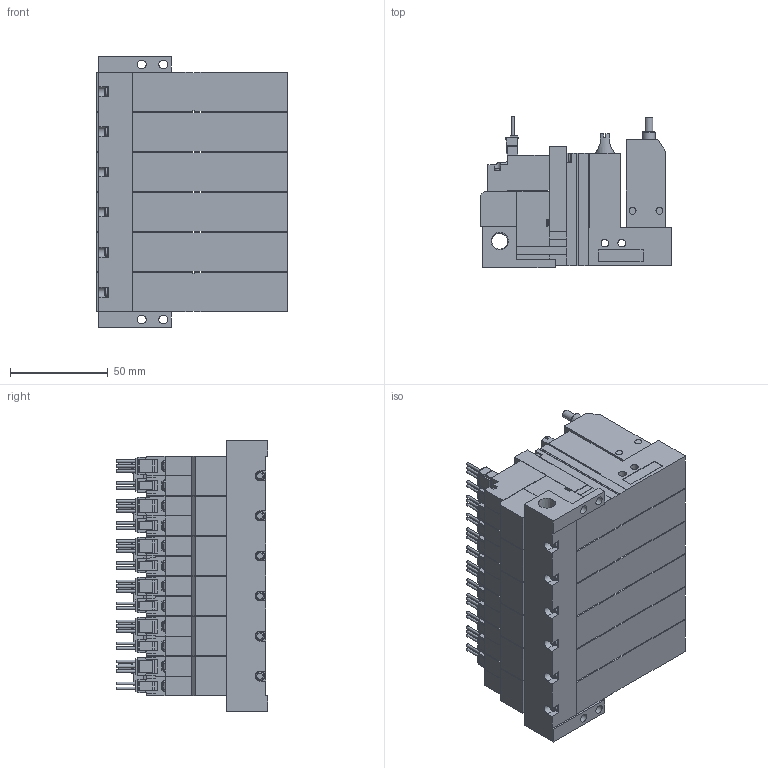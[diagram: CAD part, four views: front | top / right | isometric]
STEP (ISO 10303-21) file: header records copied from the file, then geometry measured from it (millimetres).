
FILE_DESCRIPTION(('STEP AP203'),'1');
FILE_NAME('ABS_ABPLC5WLR606.stp','2025-02-19T02:19:05',(' '),(' '),'Spatial InterOp 3D',' ',' ');
FILE_SCHEMA(('CONFIG_CONTROL_DESIGN'));
Length unit declared in the file: millimetre
Products named in the file (5): BMC22M※※※※ABS_ABPLC5WLR606; Solenoid valve W; Pressure sensor ABSLC; Unit LC; Base MR60R
Assembly tree (19 placements, depth 2):
  BMC22M※※※※ABS_ABPLC5WLR606
    Solenoid valve W  x6
    Pressure sensor ABSLC  x6
    Unit LC  x6
    Base MR60R
Bounding box: 97.6 x 77.45 x 138.5 mm (x, y, z)
Volume: 615267.2 mm3; surface area: 161323.4 mm2
Topology: 19 solids, 19 shells, 2373 faces, 6359 edges, 4180 vertices
Faces by surface type: plane 2018, cylinder 275, cone 44, torus 36
Full cylindrical faces by diameter (mm): 1.4 x30, 2.5 x6, 3 x24, 3.5 x36, 3.6 x6, 4 x18, 4.134 x6, 4.5 x4, 5.2 x6, 6 x6, 6.5 x6, 6.6 x6, 8.279 x1
Entity records: 15242 total; most frequent: CARTESIAN_POINT 2943, DIRECTION 2426, ORIENTED_EDGE 2366, EDGE_CURVE 1183, LINE 952, VECTOR 952, VERTEX_POINT 828, AXIS2_PLACEMENT_3D 737
